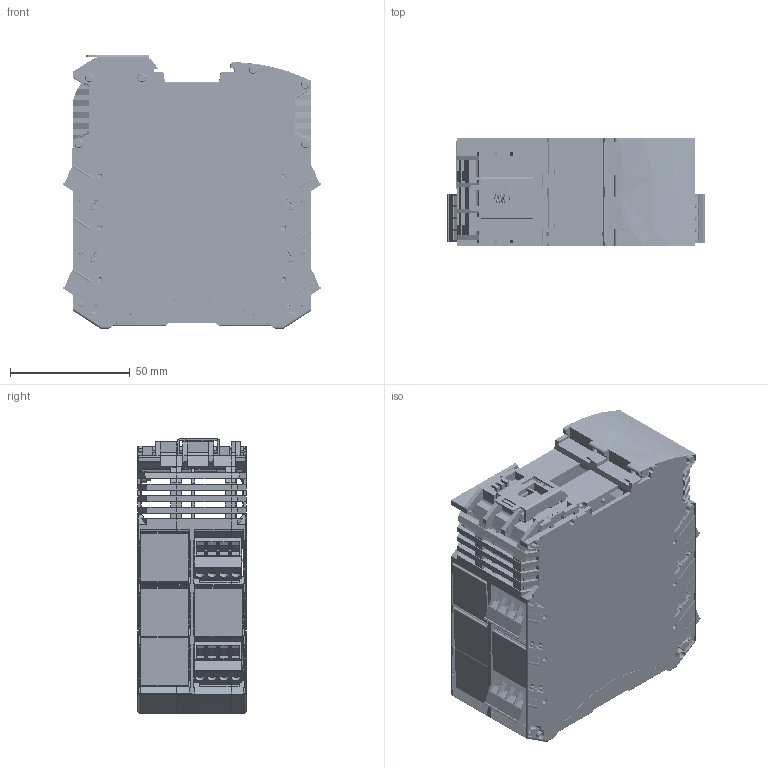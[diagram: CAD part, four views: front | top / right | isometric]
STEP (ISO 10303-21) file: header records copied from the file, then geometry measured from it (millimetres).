
FILE_DESCRIPTION(('STEP AP214'), '1');
FILE_NAME('PF-1F-2Ñ-5', '2026-08-31T13:11:10', (''), (''), 'C3D Converter', 'C3D Toolkit', '');
FILE_SCHEMA(('AUTOMOTIVE_DESIGN { 1 0 10303 214 3 1 1}'));
Length unit declared in the file: millimetre
Bounding box: 107.56 x 45.2 x 114.2 mm (x, y, z)
Volume: 93981.5 mm3; surface area: 139146.8 mm2
Topology: 59 solids, 59 shells, 6705 faces, 18727 edges, 12310 vertices
Faces by surface type: plane 4568, cylinder 970, extrusion 916, torus 138, cone 88, sphere 13, bspline 12
Full cylindrical faces by diameter (mm): 0.8 x15, 1.4 x16, 1.5 x23, 1.6 x1, 2 x48, 2.8 x1, 3 x16, 3.796 x16, 4 x16, 4.5 x1
Entity records: 283514 total; most frequent: CARTESIAN_POINT 61896, ORIENTED_EDGE 36750, DIRECTION 30570, EDGE_CURVE 18375, VECTOR 14558, LINE 13642, VERTEX_POINT 12382, AXIS2_PLACEMENT_3D 8006
